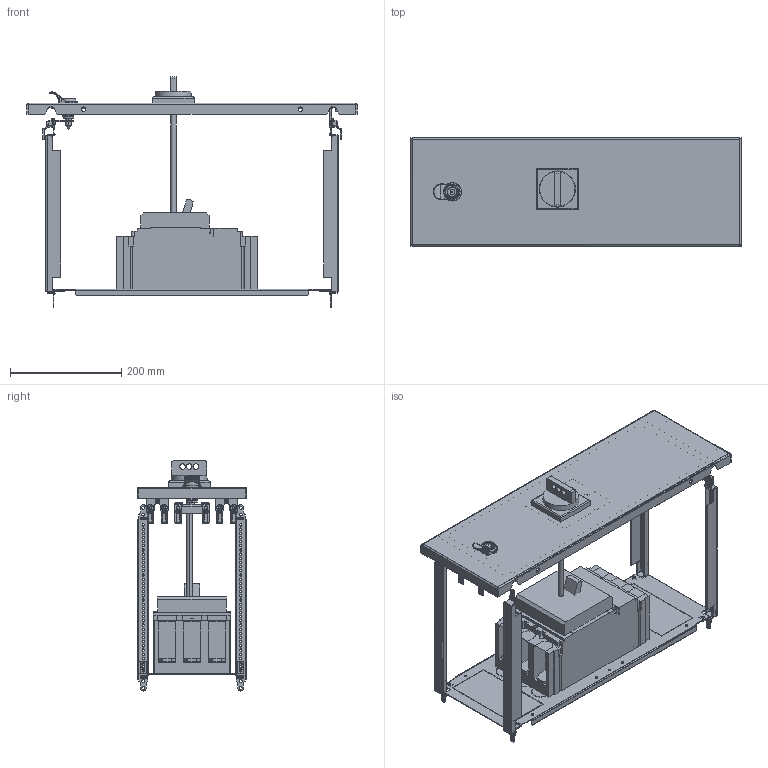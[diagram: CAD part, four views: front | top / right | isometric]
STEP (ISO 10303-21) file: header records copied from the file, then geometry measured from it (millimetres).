
FILE_DESCRIPTION(('CAx-IF Rec.Pracs.---Model Styling and Organization---1.2---2011-12-15','CAx-IF Rec.Pracs.---Geometric and Assembly Validation Properties---4.1---2014-06-16','CAx-IF Rec.Pracs.---PMI Polyline Presentation---2.0---2013-05-24'),'2;1');
FILE_NAME('R5PKEB7H62116 (F).stp','2021-07-29T02:12:07+03:00',(''),(''),'STEP Interface 4.4 by CT CoreTechnologie','3D_Evolution4.4 by CT CoreTechnologie','');
FILE_SCHEMA(('AUTOMOTIVE_DESIGN { 1 0 10303 214 1 1 1 1 }'));
Length unit declared in the file: millimetre
Products named in the file (1): R5PKEB7H62116 (F)
Bounding box: 594 x 195 x 413.9 mm (x, y, z)
Surface area: 1065733.6 mm2 (no closed solid volume)
Topology: 0 solids, 81 shells, 2671 faces, 7269 edges, 4764 vertices
Faces by surface type: plane 1212, cylinder 1068, bspline 391
Entity records: 95587 total; most frequent: CARTESIAN_POINT 26950, ORIENTED_EDGE 14428, DIRECTION 14044, EDGE_CURVE 7226, AXIS2_PLACEMENT_3D 4808, VERTEX_POINT 4766, VECTOR 4428, LINE 4428
